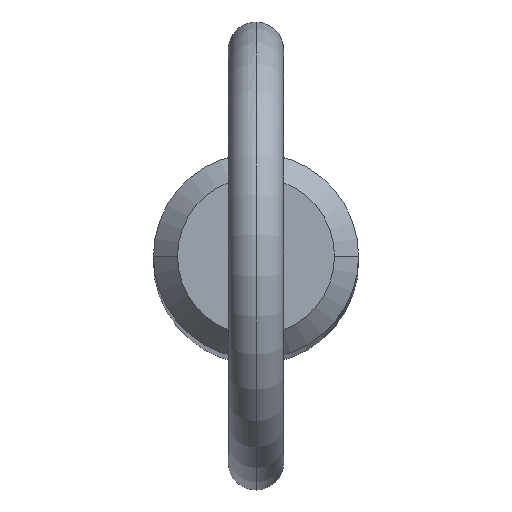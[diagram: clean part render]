
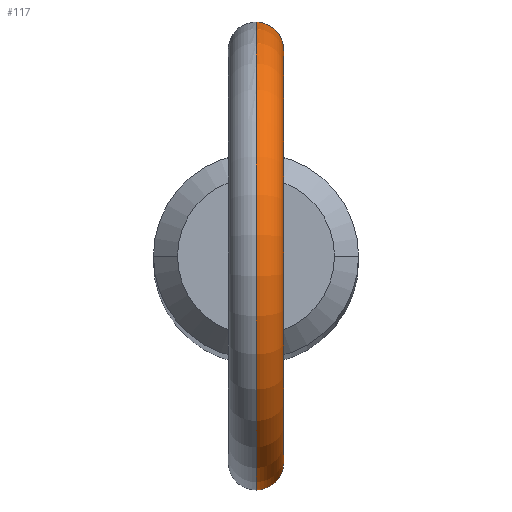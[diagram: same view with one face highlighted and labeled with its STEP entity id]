
A CAD part, top view. The second image highlights one B-rep face of the part: STEP entity #117.
In plain terms, the highlighted toroidal (fillet/blend) face has major radius 11.2 mm and minor radius 1.5 mm.
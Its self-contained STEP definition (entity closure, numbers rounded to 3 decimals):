
#3 = CARTESIAN_POINT ( 'NONE',  ( 1.251, 5.407, 144.15 ) ) ;
#5 = CARTESIAN_POINT ( 'NONE',  ( 1.455, -5.356, 144.638 ) ) ;
#9 = CARTESIAN_POINT ( 'NONE',  ( 1.363, -5.38, 144.334 ) ) ;
#11 = CARTESIAN_POINT ( 'NONE',  ( 0.984, 5.464, 143.824 ) ) ;
#13 = CARTESIAN_POINT ( 'NONE',  ( 1.19, 5.421, 144.062 ) ) ;
#17 = CARTESIAN_POINT ( 'NONE',  ( 0.422, 5.537, 146.878 ) ) ;
#18 = DIRECTION ( 'NONE',  ( 1., 0., 0. ) ) ;
#20 = CARTESIAN_POINT ( 'NONE',  ( 1.393, 5.372, 144.433 ) ) ;
#31 = EDGE_LOOP ( 'NONE', ( #363, #518, #41, #267 ) ) ;
#41 = ORIENTED_EDGE ( 'NONE', *, *, #266, .F. ) ;
#47 = CARTESIAN_POINT ( 'NONE',  ( 0.807, -5.492, 143.706 ) ) ;
#48 = CARTESIAN_POINT ( 'NONE',  ( 1.486, -5.347, 145.374 ) ) ;
#51 = CARTESIAN_POINT ( 'NONE',  ( 0.213, -5.547, 143.488 ) ) ;
#53 = CARTESIAN_POINT ( 'NONE',  ( 1.485, 5.348, 145.378 ) ) ;
#60 = VERTEX_POINT ( 'NONE', #243 ) ;
#69 = CARTESIAN_POINT ( 'NONE',  ( 0., 0., 154.9 ) ) ;
#70 = DIRECTION ( 'NONE',  ( 0., 0., -1. ) ) ;
#82 = CARTESIAN_POINT ( 'NONE',  ( 0.941, -5.471, 146.507 ) ) ;
#83 = AXIS2_PLACEMENT_3D ( 'NONE', #69, #116, #70 ) ;
#89 = CARTESIAN_POINT ( 'NONE',  ( 1.477, -5.35, 144.744 ) ) ;
#91 = CARTESIAN_POINT ( 'NONE',  ( 0., 5.55, 143.477 ) ) ;
#93 = DIRECTION ( 'NONE',  ( 0., 0., -1. ) ) ;
#98 = CARTESIAN_POINT ( 'NONE',  ( 1.294, 5.398, 145.985 ) ) ;
#102 = VERTEX_POINT ( 'NONE', #110 ) ;
#107 = TOROIDAL_SURFACE ( 'NONE', #83, 11.2, 1.5 ) ;
#110 = CARTESIAN_POINT ( 'NONE',  ( 0., -5.55, 146.945 ) ) ;
#111 = CARTESIAN_POINT ( 'NONE',  ( 0., 5.55, 146.945 ) ) ;
#116 = DIRECTION ( 'NONE',  ( 1., 0., 0. ) ) ;
#117 = ADVANCED_FACE ( 'NONE', ( #489 ), #107, .T. ) ;
#125 = CARTESIAN_POINT ( 'NONE',  ( 1.055, -5.449, 143.905 ) ) ;
#128 = CARTESIAN_POINT ( 'NONE',  ( 1.5, -5.343, 144.954 ) ) ;
#130 = CARTESIAN_POINT ( 'NONE',  ( 0.716, -5.504, 143.652 ) ) ;
#171 = CARTESIAN_POINT ( 'NONE',  ( 0.419, 5.535, 143.532 ) ) ;
#178 = CARTESIAN_POINT ( 'NONE',  ( 1.26, -5.407, 144.143 ) ) ;
#184 = CARTESIAN_POINT ( 'NONE',  ( 0., 0., 154.9 ) ) ;
#192 = VERTEX_POINT ( 'NONE', #111 ) ;
#196 = CIRCLE ( 'NONE', #241, 9.7 ) ;
#215 = CARTESIAN_POINT ( 'NONE',  ( 0.213, 5.55, 146.945 ) ) ;
#216 = CARTESIAN_POINT ( 'NONE',  ( 0., 5.55, 143.477 ) ) ;
#218 = CARTESIAN_POINT ( 'NONE',  ( 0.81, 5.494, 143.695 ) ) ;
#241 = AXIS2_PLACEMENT_3D ( 'NONE', #184, #18, #93 ) ;
#243 = CARTESIAN_POINT ( 'NONE',  ( 0., -5.55, 143.477 ) ) ;
#251 = CARTESIAN_POINT ( 'NONE',  ( 0.107, 5.55, 143.477 ) ) ;
#254 = CARTESIAN_POINT ( 'NONE',  ( 0.212, 5.547, 143.488 ) ) ;
#257 = CARTESIAN_POINT ( 'NONE',  ( 0.522, 5.526, 143.565 ) ) ;
#262 = CARTESIAN_POINT ( 'NONE',  ( 0.933, 5.472, 146.504 ) ) ;
#266 = EDGE_CURVE ( 'NONE', #102, #60, #427, .T. ) ;
#267 = ORIENTED_EDGE ( 'NONE', *, *, #383, .F. ) ;
#285 = AXIS2_PLACEMENT_3D ( 'NONE', #468, #475, #389 ) ;
#293 = CARTESIAN_POINT ( 'NONE',  ( 1.352, 5.383, 144.335 ) ) ;
#298 = CARTESIAN_POINT ( 'NONE',  ( 1.503, -5.343, 145.059 ) ) ;
#303 = CARTESIAN_POINT ( 'NONE',  ( 1.295, -5.397, 145.982 ) ) ;
#306 = CARTESIAN_POINT ( 'NONE',  ( 0.214, -5.547, 146.928 ) ) ;
#307 = B_SPLINE_CURVE_WITH_KNOTS ( 'NONE', 3,
 ( #216, #251, #254, #171, #257, #218, #11, #13, #3, #293, #20, #473, #315, #53, #357, #98, #505, #393, #262, #430, #472, #17, #215, #380 ),
 .UNSPECIFIED., .F., .F.,
 ( 4, 2, 2, 2, 2, 2, 2, 2, 2, 2, 2, 4 ),
 ( 0.001, 0.001, 0.001, 0.002, 0.002, 0.002, 0.003, 0.004, 0.004, 0.005, 0.005, 0.006 ),
 .UNSPECIFIED. ) ;
#315 = CARTESIAN_POINT ( 'NONE',  ( 1.509, 5.341, 144.953 ) ) ;
#328 = EDGE_CURVE ( 'NONE', #470, #192, #307, .T. ) ;
#342 = CARTESIAN_POINT ( 'NONE',  ( 0.515, -5.527, 146.822 ) ) ;
#348 = CARTESIAN_POINT ( 'NONE',  ( 0., -5.55, 146.945 ) ) ;
#357 = CARTESIAN_POINT ( 'NONE',  ( 1.44, 5.36, 145.588 ) ) ;
#363 = ORIENTED_EDGE ( 'NONE', *, *, #328, .F. ) ;
#376 = EDGE_CURVE ( 'NONE', #470, #60, #381, .T. ) ;
#380 = CARTESIAN_POINT ( 'NONE',  ( 0., 5.55, 146.945 ) ) ;
#381 = CIRCLE ( 'NONE', #285, 12.7 ) ;
#382 = CARTESIAN_POINT ( 'NONE',  ( 0.977, -5.464, 143.832 ) ) ;
#383 = EDGE_CURVE ( 'NONE', #192, #102, #196, .T. ) ;
#385 = CARTESIAN_POINT ( 'NONE',  ( 0.786, -5.497, 146.657 ) ) ;
#386 = CARTESIAN_POINT ( 'NONE',  ( 0.417, -5.535, 146.867 ) ) ;
#389 = DIRECTION ( 'NONE',  ( 0., 0., -1. ) ) ;
#393 = CARTESIAN_POINT ( 'NONE',  ( 1.003, 5.459, 146.425 ) ) ;
#422 = CARTESIAN_POINT ( 'NONE',  ( 0.107, -5.55, 143.477 ) ) ;
#425 = CARTESIAN_POINT ( 'NONE',  ( 0.421, -5.535, 143.532 ) ) ;
#426 = CARTESIAN_POINT ( 'NONE',  ( 0.523, -5.526, 143.566 ) ) ;
#427 = B_SPLINE_CURVE_WITH_KNOTS ( 'NONE', 3,
 ( #348, #464, #306, #386, #342, #385, #82, #466, #303, #500, #48, #298, #128, #89, #5, #9, #178, #125, #382, #47, #130, #426, #425, #51, #422, #502 ),
 .UNSPECIFIED., .F., .F.,
 ( 4, 2, 2, 2, 2, 2, 2, 2, 2, 2, 2, 2, 4 ),
 ( 0.005, 0.005, 0.005, 0.006, 0.006, 0.007, 0.007, 0.008, 0.008, 0.009, 0.009, 0.009, 0.01 ),
 .UNSPECIFIED. ) ;
#430 = CARTESIAN_POINT ( 'NONE',  ( 0.779, 5.496, 146.648 ) ) ;
#464 = CARTESIAN_POINT ( 'NONE',  ( 0.106, -5.55, 146.945 ) ) ;
#466 = CARTESIAN_POINT ( 'NONE',  ( 1.194, -5.422, 146.171 ) ) ;
#468 = CARTESIAN_POINT ( 'NONE',  ( 0., 0., 154.9 ) ) ;
#470 = VERTEX_POINT ( 'NONE', #91 ) ;
#472 = CARTESIAN_POINT ( 'NONE',  ( 0.694, 5.507, 146.714 ) ) ;
#473 = CARTESIAN_POINT ( 'NONE',  ( 1.486, 5.348, 144.738 ) ) ;
#475 = DIRECTION ( 'NONE',  ( 1., 0., 0. ) ) ;
#489 = FACE_OUTER_BOUND ( 'NONE', #31, .T. ) ;
#500 = CARTESIAN_POINT ( 'NONE',  ( 1.44, -5.36, 145.586 ) ) ;
#502 = CARTESIAN_POINT ( 'NONE',  ( 0., -5.55, 143.477 ) ) ;
#505 = CARTESIAN_POINT ( 'NONE',  ( 1.194, 5.422, 146.172 ) ) ;
#518 = ORIENTED_EDGE ( 'NONE', *, *, #376, .T. ) ;
